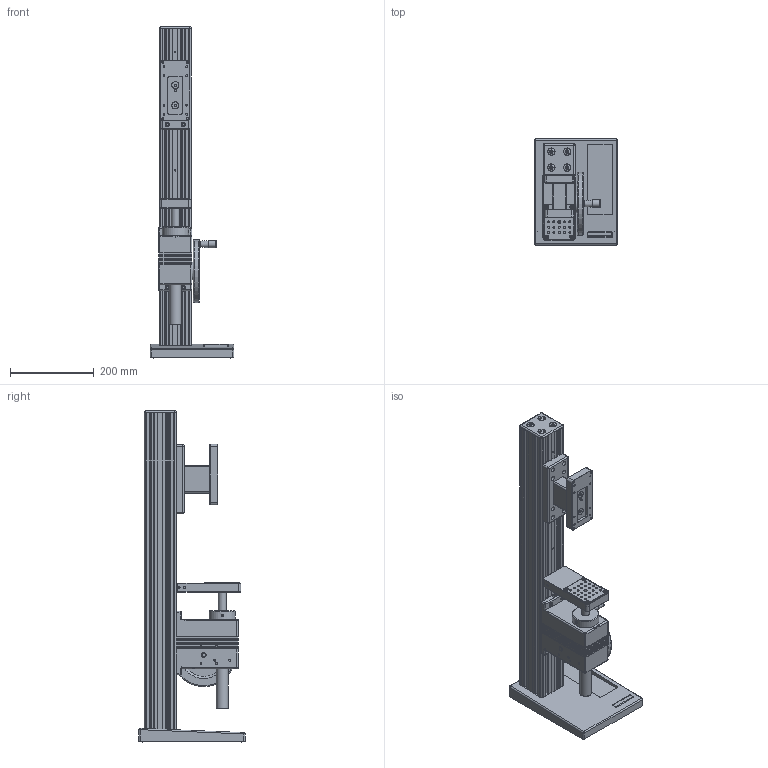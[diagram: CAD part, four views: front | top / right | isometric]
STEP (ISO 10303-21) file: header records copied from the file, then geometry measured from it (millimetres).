
FILE_DESCRIPTION((''),'2;1');
FILE_NAME('F:\CAD files\Itr\3D MARKETING MODELS\MANUAL TEST STANDS\TSF\TSF.stp','2017-06-21T15:15:52',('mlampen'),(''),'Autodesk Inventor 2010','Autodesk Inventor 2010','');
FILE_SCHEMA(('AUTOMOTIVE_DESIGN { 1 0 10303 214 1 1 1 1 }'));
Length unit declared in the file: inch
Products named in the file (4): Assembly1; Part2; Part4; Part6
Assembly tree (3 placements, depth 2):
  Assembly1
    Part2
    Part4
    Part6
Bounding box: 200.66 x 254 x 794.72 mm (x, y, z)
Volume: 5485897.4 mm3; surface area: 1110554.2 mm2
Topology: 27 solids, 27 shells, 1764 faces, 4512 edges, 2869 vertices
Faces by surface type: plane 815, cylinder 450, cone 371, bspline 89, sphere 30, torus 9
Full cylindrical faces by diameter (mm): 1.575 x1, 2.388 x1, 2.921 x5, 3.505 x18, 3.556 x20, 3.988 x2, 4.039 x9, 4.166 x8, 4.75 x1, 4.826 x31, 5.207 x4, 5.334 x2, 5.387 x7, 5.74 x2, 6.223 x4, 6.35 x8, 6.528 x4, 7.925 x8, 7.938 x1, 8.001 x2, 8.331 x4, 8.382 x11, 8.636 x4, 9.525 x14, 9.931 x6, 9.982 x1, 9.987 x1, 10.033 x4, 10.16 x4, 11.125 x1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
Entity records: 54266 total; most frequent: CARTESIAN_POINT 15347, ORIENTED_EDGE 8020, DIRECTION 7756, EDGE_CURVE 4010, AXIS2_PLACEMENT_3D 2953, VERTEX_POINT 2738, EDGE_LOOP 2314, VECTOR 1850
